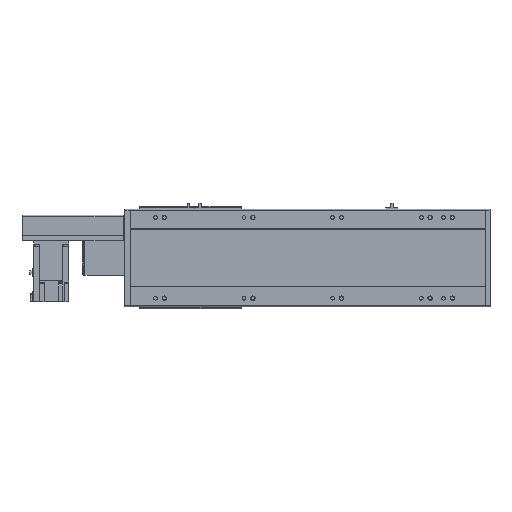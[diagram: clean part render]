
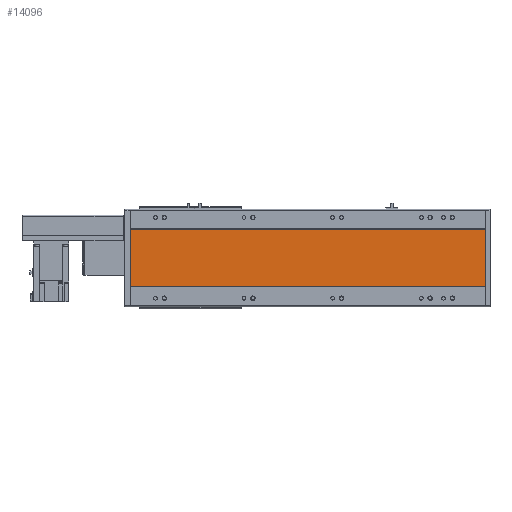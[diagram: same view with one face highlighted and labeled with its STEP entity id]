
A CAD part, front view. The second image highlights one B-rep face of the part: STEP entity #14096.
In plain terms, the highlighted planar face has unit normal (0, -1, 0).
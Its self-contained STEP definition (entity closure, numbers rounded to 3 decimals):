
#3127=ORIENTED_EDGE('',*,*,#6312,.T.);
#3128=ORIENTED_EDGE('',*,*,#6313,.F.);
#3129=ORIENTED_EDGE('',*,*,#6314,.F.);
#3130=ORIENTED_EDGE('',*,*,#6310,.T.);
#6310=EDGE_CURVE('',#8025,#8024,#9290,.T.);
#6312=EDGE_CURVE('',#8024,#8026,#9291,.T.);
#6313=EDGE_CURVE('',#8027,#8026,#9292,.T.);
#6314=EDGE_CURVE('',#8025,#8027,#9293,.T.);
#8024=VERTEX_POINT('',#23205);
#8025=VERTEX_POINT('',#23207);
#8026=VERTEX_POINT('',#23211);
#8027=VERTEX_POINT('',#23213);
#9290=LINE('',#23206,#10629);
#9291=LINE('',#23210,#10630);
#9292=LINE('',#23212,#10631);
#9293=LINE('',#23214,#10632);
#10629=VECTOR('',#18569,1000.);
#10630=VECTOR('',#18574,1000.);
#10631=VECTOR('',#18575,1000.);
#10632=VECTOR('',#18576,1000.);
#11574=EDGE_LOOP('',(#3127,#3128,#3129,#3130));
#12625=FACE_BOUND('',#11574,.T.);
#13447=PLANE('',#15370);
#14096=ADVANCED_FACE('',(#12625),#13447,.F.);
#15370=AXIS2_PLACEMENT_3D('',#23209,#18572,#18573);
#18569=DIRECTION('',(-1.,0.,0.));
#18572=DIRECTION('',(0.,1.,0.));
#18573=DIRECTION('',(0.,0.,1.));
#18574=DIRECTION('',(0.,0.,-1.));
#18575=DIRECTION('',(-1.,0.,0.));
#18576=DIRECTION('',(0.,0.,-1.));
#23205=CARTESIAN_POINT('',(12.,1.,64.294));
#23206=CARTESIAN_POINT('',(814.,1.,64.294));
#23207=CARTESIAN_POINT('',(814.,1.,64.294));
#23209=CARTESIAN_POINT('',(814.,1.,64.294));
#23210=CARTESIAN_POINT('',(12.,1.,64.294));
#23211=CARTESIAN_POINT('',(12.,1.,-64.294));
#23212=CARTESIAN_POINT('',(814.,1.,-64.294));
#23213=CARTESIAN_POINT('',(814.,1.,-64.294));
#23214=CARTESIAN_POINT('',(814.,1.,64.294));
